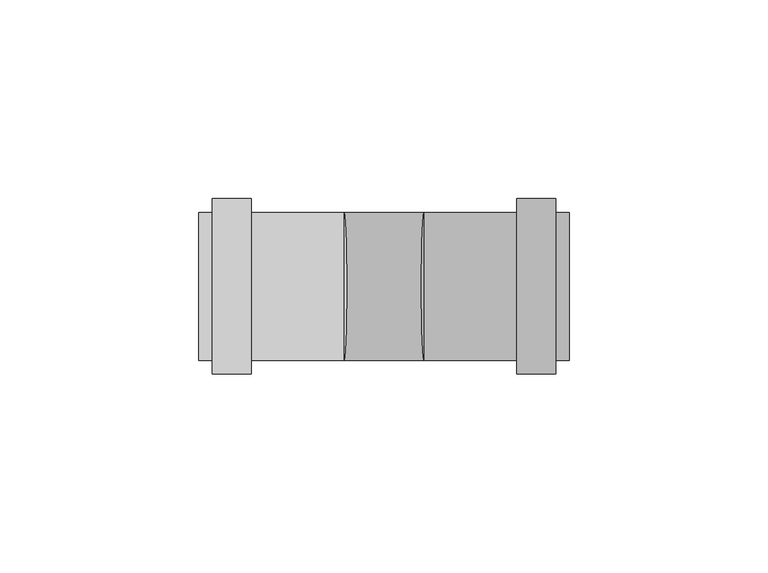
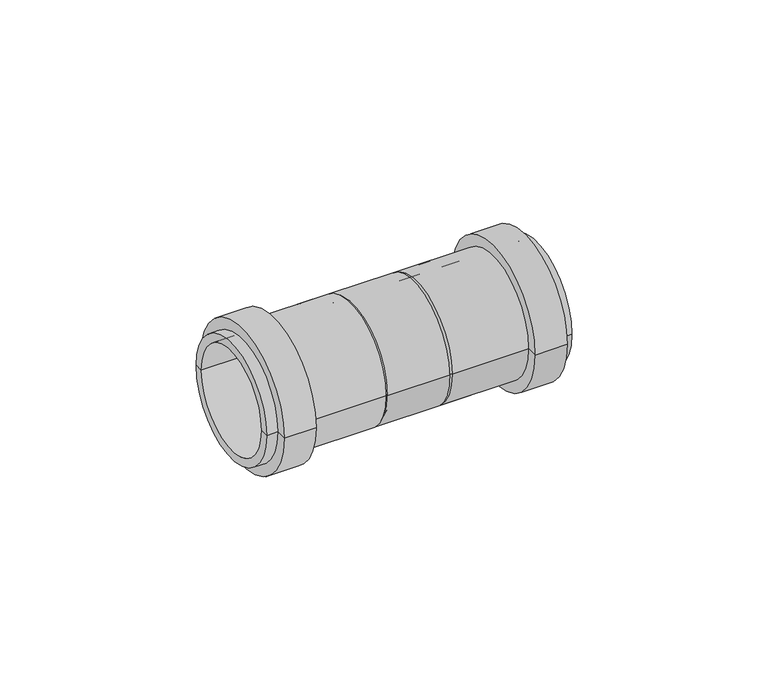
"""IFC4 building model written with IfcOpenShell, lengths in millimetres: pipe fitting geometry, pf_HTU : pf_HTU."""

import ifcopenshell
import ifcopenshell.guid

model = None  # the IFC model being written
_history = None  # IfcOwnerHistory: only IFC2X3 demands one
_inside = {}  # id of a spatial element -> (the spatial element, [elements in it])
_under = {}  # id of a project, library or spatial element -> (it, [spatial elements below it])
_declared = {}  # id of a project -> (the project, [libraries it declares])
_typed = {}  # id of a type object -> (the type object, [elements of that type])
_made_of = {}  # id of a material, layer set ... -> (it, [elements and type objects made of it])


def new_model(schema):
    """Start an empty IFC model of exactly this schema.

    Asked for "IFC4X3", IfcOpenShell would pick the latest addendum, in which some entities
    have other attributes; the version numbers below select the first issue.
    IFC2X3 requires an IfcOwnerHistory on every rooted entity: one is made here for all.
    """
    global model, _history
    if schema == "IFC4X3":
        model = ifcopenshell.file(schema_version=(4, 3, 0, 0))
    else:
        model = ifcopenshell.file(schema=schema)
    _inside.clear()
    _under.clear()
    _declared.clear()
    _typed.clear()
    _made_of.clear()
    _history = None
    if model.schema == "IFC2X3":
        org = make("IfcOrganization", Name="unknown")
        user = make(
            "IfcPersonAndOrganization",
            ThePerson=make("IfcPerson", FamilyName="unknown"),
            TheOrganization=org,
        )
        app = make(
            "IfcApplication",
            ApplicationDeveloper=org,
            Version="unknown",
            ApplicationFullName="unknown",
            ApplicationIdentifier="unknown",
        )
        _history = make(
            "IfcOwnerHistory",
            OwningUser=user,
            OwningApplication=app,
            ChangeAction="ADDED",
            CreationDate=0,
        )
    return model


def make(cls, **values):
    """One entity of the class cls with the attributes given. An attribute that is None is left unset."""
    return model.create_entity(
        cls, **{name: value for name, value in values.items() if value is not None}
    )


def rooted(cls, **values):
    """An entity with a GlobalId (a new one), such as an element, a storey or a relation."""
    return make(cls, GlobalId=ifcopenshell.guid.new(), OwnerHistory=_history, **values)


def si_unit(unit_type, name, prefix=None):
    """IfcSIUnit, for example si_unit("LENGTHUNIT", "METRE", prefix="MILLI")."""
    return make("IfcSIUnit", UnitType=unit_type, Prefix=prefix, Name=name)


def assignment(units):
    """IfcUnitAssignment: the units of a project."""
    return None if units is None else make("IfcUnitAssignment", Units=units)


def point(xyz):
    """IfcCartesianPoint."""
    return None if xyz is None else make("IfcCartesianPoint", Coordinates=xyz)


def direction(xyz):
    """IfcDirection."""
    return None if xyz is None else make("IfcDirection", DirectionRatios=xyz)


def frame(location, z_axis=None, x_axis=None):
    """IfcAxis2Placement3D, a coordinate frame: its origin and axes. An axis left out is left unset."""
    return make(
        "IfcAxis2Placement3D",
        Location=point(location),
        Axis=direction(z_axis),
        RefDirection=direction(x_axis),
    )


def frame_2d(location, x_axis=None):
    """IfcAxis2Placement2D, a coordinate frame in the plane: its origin and x axis."""
    return make(
        "IfcAxis2Placement2D", Location=point(location), RefDirection=direction(x_axis)
    )


def origin():
    """The frame at (0, 0, 0) with its axes left unset."""
    return frame((0.0, 0.0, 0.0))


def origin_2d():
    """The frame at (0, 0) in the plane with its x axis left unset."""
    return frame_2d((0.0, 0.0))


def place(relative_to, where):
    """IfcLocalPlacement: puts the frame where relative to a parent placement (None: the world)."""
    return make(
        "IfcLocalPlacement", PlacementRelTo=relative_to, RelativePlacement=where
    )


def context(
    kind, dimensions, precision=None, world=None, true_north=None, identifier=None
):
    """IfcGeometricRepresentationContext, for example the 3D "Model" context."""
    return make(
        "IfcGeometricRepresentationContext",
        ContextIdentifier=identifier,
        ContextType=kind,
        CoordinateSpaceDimension=dimensions,
        Precision=precision,
        WorldCoordinateSystem=world,
        TrueNorth=true_north,
    )


def project(units=None, contexts=None):
    """IfcProject with its units and contexts."""
    return rooted(
        "IfcProject",
        Name="project",
        RepresentationContexts=contexts,
        UnitsInContext=assignment(units),
    )


def spatial(cls, under=None, at=None, **own):
    """A site, building, storey or space (cls), placed at a placement, below another one or the project."""
    s = rooted(cls, ObjectPlacement=at, **own)
    if under is not None:
        _under.setdefault(under.id(), (under, []))[1].append(s)
    return s


def polyline(points):
    """IfcPolyline through the points."""
    return make("IfcPolyline", Points=[point(p) for p in points])


def circle_curve(where, radius):
    """IfcCircle in the frame where."""
    return make("IfcCircle", Position=where, Radius=radius)


def trimmed(basis, trim1, trim2, sense, master):
    """IfcTrimmedCurve: the piece of a basis curve between two trims."""
    return make(
        "IfcTrimmedCurve",
        BasisCurve=basis,
        Trim1=trim1,
        Trim2=trim2,
        SenseAgreement=sense,
        MasterRepresentation=master,
    )


def segment(curve, same_sense, transition):
    """IfcCompositeCurveSegment."""
    return make(
        "IfcCompositeCurveSegment",
        Transition=transition,
        SameSense=same_sense,
        ParentCurve=curve,
    )


def composite_curve(segments, self_intersect=None):
    """IfcCompositeCurve: segments joined end to end."""
    return make("IfcCompositeCurve", Segments=segments, SelfIntersect=self_intersect)


def outline(outer, holes=None, kind="AREA"):
    """IfcArbitraryClosedProfileDef: a profile drawn as a closed curve; with holes, ...WithVoids."""
    if holes is None:
        return make("IfcArbitraryClosedProfileDef", ProfileType=kind, OuterCurve=outer)
    return make(
        "IfcArbitraryProfileDefWithVoids",
        ProfileType=kind,
        OuterCurve=outer,
        InnerCurves=holes,
    )


def extrude(swept, where, along, depth):
    """IfcExtrudedAreaSolid: the profile swept, set in the frame where, extruded along a direction by depth."""
    return make(
        "IfcExtrudedAreaSolid",
        SweptArea=swept,
        Position=where,
        ExtrudedDirection=direction(along),
        Depth=depth,
    )


def shape(context_of_items, identifier, shape_type, items):
    """IfcShapeRepresentation: the items that make up one representation, for example the "Body"."""
    return make(
        "IfcShapeRepresentation",
        ContextOfItems=context_of_items,
        RepresentationIdentifier=identifier,
        RepresentationType=shape_type,
        Items=items,
    )


def source(mapping_origin, context_of_items, identifier, shape_type, items):
    """IfcRepresentationMap: a shape defined once, which mapped items show again and again."""
    return make(
        "IfcRepresentationMap",
        MappingOrigin=mapping_origin,
        MappedRepresentation=shape(context_of_items, identifier, shape_type, items),
    )


def transform(
    local_origin,
    x_axis=None,
    y_axis=None,
    z_axis=None,
    scale=None,
    scale2=None,
    scale3=None,
    uniform=True,
):
    """IfcCartesianTransformationOperator3D, or its non-uniform kind. x_axis, y_axis, z_axis: its Axis1, 2, 3."""
    if uniform:
        return make(
            "IfcCartesianTransformationOperator3D",
            Axis1=direction(x_axis),
            Axis2=direction(y_axis),
            LocalOrigin=point(local_origin),
            Scale=scale,
            Axis3=direction(z_axis),
        )
    return make(
        "IfcCartesianTransformationOperator3DnonUniform",
        Axis1=direction(x_axis),
        Axis2=direction(y_axis),
        LocalOrigin=point(local_origin),
        Scale=scale,
        Axis3=direction(z_axis),
        Scale2=scale2,
        Scale3=scale3,
    )


def mapped(mapping_source, mapping_target):
    """IfcMappedItem: shows the shape of a source again, moved by a transform."""
    return make(
        "IfcMappedItem", MappingSource=mapping_source, MappingTarget=mapping_target
    )


def made_of(thing, what):
    """Note that an element or type object is made of a material, layer set ...; save() writes the relation."""
    if what is not None:
        _made_of.setdefault(what.id(), (what, []))[1].append(thing)
    return thing


def element(
    cls,
    number,
    at=None,
    inside=None,
    cuts=None,
    type_object=None,
    material=None,
    context=None,
    identifier="Body",
    shape_type=None,
    held_by="IfcProductDefinitionShape",
    body=None,
    shapes=None,
    **own,
):
    """One element of the class cls, such as IfcWall. Its Tag is "e" and its number.

    at: its placement. inside: the storey or other place that contains it. cuts: it is an
    opening in that element (IfcRelVoidsElement). A single representation is given by context,
    identifier, shape_type and body (its items); several are given by shapes. held_by: the class
    of the entity that holds the representations. save() writes the other relations.
    """
    e = rooted(cls, Tag="e%d" % number, ObjectPlacement=at, **own)
    if body is not None:
        shapes = [shape(context, identifier, shape_type, body)]
    if shapes is not None:
        e.Representation = make(held_by, Representations=shapes)
    if inside is not None:
        _inside.setdefault(inside.id(), (inside, []))[1].append(e)
    if cuts is not None:
        rooted(
            "IfcRelVoidsElement", RelatingBuildingElement=cuts, RelatedOpeningElement=e
        )
    if type_object is not None:
        _typed.setdefault(type_object.id(), (type_object, []))[1].append(e)
    return made_of(e, material)


def aggregate(whole, parts):
    """IfcRelAggregates: a whole, such as a stair, and the parts it consists of."""
    return rooted("IfcRelAggregates", RelatingObject=whole, RelatedObjects=parts)


def save(model, path):
    """Write the relations noted so far, then the file.

    IfcRelAggregates (storeys below a building ...), IfcRelContainedInSpatialStructure (elements
    in a storey), IfcRelDefinesByType, IfcRelAssociatesMaterial and IfcRelDeclares: one each for
    every whole, place, type object, material and project.
    """
    for whole, parts in _under.values():
        aggregate(whole, parts)
    for where, things in _inside.values():
        rooted(
            "IfcRelContainedInSpatialStructure",
            RelatedElements=things,
            RelatingStructure=where,
        )
    for kind, things in _typed.values():
        rooted("IfcRelDefinesByType", RelatedObjects=things, RelatingType=kind)
    for what, things in _made_of.values():
        rooted("IfcRelAssociatesMaterial", RelatedObjects=things, RelatingMaterial=what)
    for by, libraries in _declared.values():
        rooted("IfcRelDeclares", RelatingContext=by, RelatedDefinitions=libraries)
    model.write(path)


def plane_surface(at):
    """IfcPlane: the flat surface through the origin of the frame at, square to its z axis."""
    return make("IfcPlane", Position=at)


def cylinder_surface(at, radius):
    """IfcCylindricalSurface: all points at the distance radius from the z axis of the frame at."""
    return make("IfcCylindricalSurface", Position=at, Radius=radius)


def revolved_surface(curve, axis_point, axis_direction):
    """IfcSurfaceOfRevolution: the curve turned about the line through axis_point along axis_direction."""
    return make(
        "IfcSurfaceOfRevolution",
        SweptCurve=make("IfcArbitraryOpenProfileDef", ProfileType="CURVE", Curve=curve),
        AxisPosition=make("IfcAxis1Placement", Location=point(axis_point), Axis=direction(axis_direction)),
    )


def advanced_brep(points, edges, surfaces, faces):
    """IfcAdvancedBrep: a solid bounded by faces that lie on surfaces and meet in shared edges.

    An edge is (start, end): straight between two places in points (the first is 0);
    or (start, end, curve); or (start, end, curve, False) where it runs against its curve.
    A face is (place in surfaces, loops), or (place, loops, False) where it looks against
    its surface's normal. A loop lists edges by number (the first is 1), with a minus sign
    where the edge is run from its end to its start. The first loop is the outer one.
    """
    corners = [point(p) for p in points]
    vertices = [make("IfcVertexPoint", VertexGeometry=c) for c in corners]
    made = []
    for start, end, *more in edges:
        made.append(
            make(
                "IfcEdgeCurve",
                EdgeStart=vertices[start],
                EdgeEnd=vertices[end],
                EdgeGeometry=more[0] if more else make("IfcPolyline", Points=[corners[start], corners[end]]),
                SameSense=more[1] if len(more) > 1 else True,
            )
        )
    hull = []
    for where, loops, *sense in faces:
        bounds = []
        for j, loop in enumerate(loops):
            ring = [make("IfcOrientedEdge", EdgeElement=made[abs(k) - 1], Orientation=k > 0) for k in loop]
            bounds.append(
                make(
                    "IfcFaceOuterBound" if j == 0 else "IfcFaceBound",
                    Bound=make("IfcEdgeLoop", EdgeList=ring),
                    Orientation=True,
                )
            )
        hull.append(make("IfcAdvancedFace", Bounds=bounds, FaceSurface=surfaces[where], SameSense=sense[0] if sense else True))
    return make("IfcAdvancedBrep", Outer=make("IfcClosedShell", CfsFaces=hull))


def pipe_fitting_61e1075e(model_context):
    return source(origin(), model_context, "Body", "SolidModel", [
        advanced_brep(
        [(6.5, -16.0, 0.0), (6.5, 16.0, 0.0), (10.0, 18.6, 0.0), (10.0, -18.6, 0.0), (6.5, 0.0, 0.0), (46.5, -18.6, 0.0), (46.5, 18.6, 0.0), (46.5, 16.0, 0.0), (46.5, -16.0, 0.0), (43.1, -18.6, 0.0), (43.1, 18.6, 0.0), (43.1, -22.0, 0.0), (43.1, 22.0, 0.0), (33.4, -22.0, 0.0), (33.4, 22.0, 0.0), (33.4, -18.6, 0.0), (33.4, 18.6, 0.0), (10.0, -16.0, 0.0), (10.0, 16.0, 0.0), (10.0, 0.0, 0.0)],
        [
            (0, 1, circle_curve(frame((6.5, 0.0, 0.0), z_axis=(1.0, 0.0, 0.0), x_axis=(0.0, 1.0, 0.0)), 16.0)),
            (1, 2),
            (2, 3, circle_curve(frame((10.0, 0.0, 0.0), z_axis=(-1.0, 0.0, 0.0), x_axis=(0.0, 1.0, 0.0)), 18.6)),
            (3, 0),
            (1, 0, circle_curve(frame((6.5, 0.0, 0.0), z_axis=(1.0, 0.0, 0.0), x_axis=(0.0, 1.0, 0.0)), 16.0)),
            (3, 2, circle_curve(frame((10.0, 0.0, 0.0), z_axis=(-1.0, 0.0, 0.0), x_axis=(0.0, 1.0, 0.0)), 18.6)),
            (4, 1),
            (0, 4),
            (5, 6, circle_curve(frame((46.5, 0.0, 0.0), z_axis=(1.0, 0.0, 0.0), x_axis=(0.0, 1.0, 0.0)), 18.6)),
            (6, 7),
            (7, 8, circle_curve(frame((46.5, 0.0, 0.0), z_axis=(-1.0, 0.0, 0.0), x_axis=(0.0, 1.0, 0.0)), 16.0)),
            (8, 5),
            (6, 5, circle_curve(frame((46.5, 0.0, 0.0), z_axis=(1.0, 0.0, 0.0), x_axis=(0.0, 1.0, 0.0)), 18.6)),
            (8, 7, circle_curve(frame((46.5, 0.0, 0.0), z_axis=(-1.0, 0.0, 0.0), x_axis=(0.0, 1.0, 0.0)), 16.0)),
            (9, 10, circle_curve(frame((43.1, 0.0, 0.0), z_axis=(1.0, 0.0, 0.0), x_axis=(0.0, 1.0, 0.0)), 18.6)),
            (10, 6),
            (5, 9),
            (10, 9, circle_curve(frame((43.1, 0.0, 0.0), z_axis=(1.0, 0.0, 0.0), x_axis=(0.0, 1.0, 0.0)), 18.6)),
            (11, 12, circle_curve(frame((43.1, 0.0, 0.0), z_axis=(1.0, 0.0, 0.0), x_axis=(0.0, 1.0, 0.0)), 22.0)),
            (12, 10),
            (9, 11),
            (12, 11, circle_curve(frame((43.1, 0.0, 0.0), z_axis=(1.0, 0.0, 0.0), x_axis=(0.0, 1.0, 0.0)), 22.0)),
            (13, 14, circle_curve(frame((33.4, 0.0, 0.0), z_axis=(1.0, 0.0, 0.0), x_axis=(0.0, 1.0, 0.0)), 22.0)),
            (14, 12),
            (11, 13),
            (14, 13, circle_curve(frame((33.4, 0.0, 0.0), z_axis=(1.0, 0.0, 0.0), x_axis=(0.0, 1.0, 0.0)), 22.0)),
            (15, 16, circle_curve(frame((33.4, 0.0, 0.0), z_axis=(1.0, 0.0, 0.0), x_axis=(0.0, 1.0, 0.0)), 18.6)),
            (16, 14),
            (13, 15),
            (16, 15, circle_curve(frame((33.4, 0.0, 0.0), z_axis=(1.0, 0.0, 0.0), x_axis=(0.0, 1.0, 0.0)), 18.6)),
            (2, 16),
            (15, 3),
            (17, 18, circle_curve(frame((10.0, 0.0, 0.0), z_axis=(1.0, 0.0, 0.0), x_axis=(0.0, 1.0, 0.0)), 16.0)),
            (18, 19),
            (19, 17),
            (18, 17, circle_curve(frame((10.0, 0.0, 0.0), z_axis=(1.0, 0.0, 0.0), x_axis=(0.0, 1.0, 0.0)), 16.0)),
            (7, 18),
            (17, 8),
        ],
        [
            revolved_surface(polyline([(10.0, 18.6, 0.0), (6.5, 16.0, 0.0)]), (6.5, 0.0, 0.0), (-1.0, 0.0, 0.0)),
            plane_surface(frame((6.5, 0.0, 0.0), z_axis=(-1.0, 0.0, 0.0), x_axis=(0.0, 1.0, 0.0))),
            plane_surface(frame((46.5, 0.0, 0.0), z_axis=(1.0, 0.0, 0.0), x_axis=(0.0, 1.0, 0.0))),
            cylinder_surface(frame((6.5, 0.0, 0.0), z_axis=(-1.0, 0.0, 0.0), x_axis=(0.0, 1.0, 0.0)), 18.6),
            plane_surface(frame((43.1, 0.0, 0.0), z_axis=(1.0, 0.0, 0.0), x_axis=(0.0, 1.0, 0.0))),
            cylinder_surface(frame((6.5, 0.0, 0.0), z_axis=(-1.0, 0.0, 0.0), x_axis=(0.0, 1.0, 0.0)), 22.0),
            plane_surface(frame((33.4, 0.0, 0.0), z_axis=(-1.0, 0.0, 0.0), x_axis=(0.0, 1.0, 0.0))),
            plane_surface(frame((10.0, 0.0, 0.0), z_axis=(1.0, 0.0, 0.0), x_axis=(0.0, 1.0, 0.0))),
            revolved_surface(polyline([(10.0, 16.0, 0.0), (46.5, 16.0, 0.0)]), (6.5, 0.0, 0.0), (-1.0, 0.0, 0.0)),
        ],
        [
            (0, [[1, 2, 3, 4]]),
            (0, [[5, -4, 6, -2]]),
            (1, [[7, -1, 8]]),
            (1, [[-8, -5, -7]]),
            (2, [[9, 10, 11, 12]]),
            (2, [[13, -12, 14, -10]]),
            (3, [[15, 16, -9, 17]]),
            (3, [[18, -17, -13, -16]]),
            (4, [[19, 20, -15, 21]]),
            (4, [[22, -21, -18, -20]]),
            (5, [[23, 24, -19, 25]]),
            (5, [[26, -25, -22, -24]]),
            (6, [[27, 28, -23, 29]]),
            (6, [[30, -29, -26, -28]]),
            (3, [[-3, 31, -27, 32]]),
            (3, [[-6, -32, -30, -31]]),
            (7, [[33, 34, 35]]),
            (7, [[36, -35, -34]]),
            (8, [[-11, 37, -33, 38]]),
            (8, [[-14, -38, -36, -37]]),
        ],
    ),
        advanced_brep(
        [(-6.5, 16.0, 0.0), (-6.5, -16.0, 0.0), (-10.0, -18.6, 0.0), (-10.0, 18.6, 0.0), (-6.5, 0.0, 0.0), (-46.5, 18.6, 0.0), (-46.5, -18.6, 0.0), (-46.5, -16.0, 0.0), (-46.5, 16.0, 0.0), (-43.1, 18.6, 0.0), (-43.1, -18.6, 0.0), (-43.1, 22.0, 0.0), (-43.1, -22.0, 0.0), (-33.4, 22.0, 0.0), (-33.4, -22.0, 0.0), (-33.4, 18.6, 0.0), (-33.4, -18.6, 0.0), (-10.0, 16.0, 0.0), (-10.0, -16.0, 0.0), (-10.0, 0.0, 0.0)],
        [
            (0, 1, circle_curve(frame((-6.5, 0.0, 0.0), z_axis=(-1.0, 0.0, 0.0), x_axis=(0.0, -1.0, 0.0)), 16.0)),
            (1, 2),
            (2, 3, circle_curve(frame((-10.0, 0.0, 0.0), z_axis=(1.0, 0.0, 0.0), x_axis=(0.0, -1.0, 0.0)), 18.6)),
            (3, 0),
            (1, 0, circle_curve(frame((-6.5, 0.0, 0.0), z_axis=(-1.0, 0.0, 0.0), x_axis=(0.0, -1.0, 0.0)), 16.0)),
            (3, 2, circle_curve(frame((-10.0, 0.0, 0.0), z_axis=(1.0, 0.0, 0.0), x_axis=(0.0, -1.0, 0.0)), 18.6)),
            (4, 1),
            (0, 4),
            (5, 6, circle_curve(frame((-46.5, 0.0, 0.0), z_axis=(-1.0, 0.0, 0.0), x_axis=(0.0, -1.0, 0.0)), 18.6)),
            (6, 7),
            (7, 8, circle_curve(frame((-46.5, 0.0, 0.0), z_axis=(1.0, 0.0, 0.0), x_axis=(0.0, -1.0, 0.0)), 16.0)),
            (8, 5),
            (6, 5, circle_curve(frame((-46.5, 0.0, 0.0), z_axis=(-1.0, 0.0, 0.0), x_axis=(0.0, -1.0, 0.0)), 18.6)),
            (8, 7, circle_curve(frame((-46.5, 0.0, 0.0), z_axis=(1.0, 0.0, 0.0), x_axis=(0.0, -1.0, 0.0)), 16.0)),
            (9, 10, circle_curve(frame((-43.1, 0.0, 0.0), z_axis=(-1.0, 0.0, 0.0), x_axis=(0.0, -1.0, 0.0)), 18.6)),
            (10, 6),
            (5, 9),
            (10, 9, circle_curve(frame((-43.1, 0.0, 0.0), z_axis=(-1.0, 0.0, 0.0), x_axis=(0.0, -1.0, 0.0)), 18.6)),
            (11, 12, circle_curve(frame((-43.1, 0.0, 0.0), z_axis=(-1.0, 0.0, 0.0), x_axis=(0.0, -1.0, 0.0)), 22.0)),
            (12, 10),
            (9, 11),
            (12, 11, circle_curve(frame((-43.1, 0.0, 0.0), z_axis=(-1.0, 0.0, 0.0), x_axis=(0.0, -1.0, 0.0)), 22.0)),
            (13, 14, circle_curve(frame((-33.4, 0.0, 0.0), z_axis=(-1.0, 0.0, 0.0), x_axis=(0.0, -1.0, 0.0)), 22.0)),
            (14, 12),
            (11, 13),
            (14, 13, circle_curve(frame((-33.4, 0.0, 0.0), z_axis=(-1.0, 0.0, 0.0), x_axis=(0.0, -1.0, 0.0)), 22.0)),
            (15, 16, circle_curve(frame((-33.4, 0.0, 0.0), z_axis=(-1.0, 0.0, 0.0), x_axis=(0.0, -1.0, 0.0)), 18.6)),
            (16, 14),
            (13, 15),
            (16, 15, circle_curve(frame((-33.4, 0.0, 0.0), z_axis=(-1.0, 0.0, 0.0), x_axis=(0.0, -1.0, 0.0)), 18.6)),
            (2, 16),
            (15, 3),
            (17, 18, circle_curve(frame((-10.0, 0.0, 0.0), z_axis=(-1.0, 0.0, 0.0), x_axis=(0.0, -1.0, 0.0)), 16.0)),
            (18, 19),
            (19, 17),
            (18, 17, circle_curve(frame((-10.0, 0.0, 0.0), z_axis=(-1.0, 0.0, 0.0), x_axis=(0.0, -1.0, 0.0)), 16.0)),
            (7, 18),
            (17, 8),
        ],
        [
            revolved_surface(polyline([(-10.0, -18.6, 0.0), (-6.5, -16.0, 0.0)]), (-6.5, 0.0, 0.0), (1.0, 0.0, 0.0)),
            plane_surface(frame((-6.5, 0.0, 0.0), z_axis=(1.0, 0.0, 0.0), x_axis=(0.0, -1.0, 0.0))),
            plane_surface(frame((-46.5, 0.0, 0.0), z_axis=(-1.0, 0.0, 0.0), x_axis=(0.0, -1.0, 0.0))),
            cylinder_surface(frame((-6.5, 0.0, 0.0), z_axis=(1.0, 0.0, 0.0), x_axis=(0.0, -1.0, 0.0)), 18.6),
            plane_surface(frame((-43.1, 0.0, 0.0), z_axis=(-1.0, 0.0, 0.0), x_axis=(0.0, -1.0, 0.0))),
            cylinder_surface(frame((-6.5, 0.0, 0.0), z_axis=(1.0, 0.0, 0.0), x_axis=(0.0, -1.0, 0.0)), 22.0),
            plane_surface(frame((-33.4, 0.0, 0.0), z_axis=(1.0, 0.0, 0.0), x_axis=(0.0, -1.0, 0.0))),
            plane_surface(frame((-10.0, 0.0, 0.0), z_axis=(-1.0, 0.0, 0.0), x_axis=(0.0, -1.0, 0.0))),
            revolved_surface(polyline([(-10.0, -16.0, 0.0), (-46.5, -16.0, 0.0)]), (-6.5, 0.0, 0.0), (1.0, 0.0, 0.0)),
        ],
        [
            (0, [[1, 2, 3, 4]]),
            (0, [[5, -4, 6, -2]]),
            (1, [[7, -1, 8]]),
            (1, [[-8, -5, -7]]),
            (2, [[9, 10, 11, 12]]),
            (2, [[13, -12, 14, -10]]),
            (3, [[15, 16, -9, 17]]),
            (3, [[18, -17, -13, -16]]),
            (4, [[19, 20, -15, 21]]),
            (4, [[22, -21, -18, -20]]),
            (5, [[23, 24, -19, 25]]),
            (5, [[26, -25, -22, -24]]),
            (6, [[27, 28, -23, 29]]),
            (6, [[30, -29, -26, -28]]),
            (3, [[-3, 31, -27, 32]]),
            (3, [[-6, -32, -30, -31]]),
            (7, [[33, 34, 35]]),
            (7, [[36, -35, -34]]),
            (8, [[-11, 37, -33, 38]]),
            (8, [[-14, -38, -36, -37]]),
        ],
    ),
        extrude(outline(composite_curve([segment(trimmed(circle_curve(origin_2d(), 18.6), [point((-18.6, 0.0))], [point((18.6, 0.0))], False, "CARTESIAN"), True, "CONTINUOUS"), segment(trimmed(circle_curve(origin_2d(), 18.6), [point((18.6, 0.0))], [point((-18.6, 0.0))], False, "CARTESIAN"), True, "CONTINUOUS")], self_intersect=False)), frame((-19.2389226, 0.0, 0.0), z_axis=(1.0, 0.0, 0.0), x_axis=(0.0, 1.0, 0.0)), (0.0, 0.0, 1.0), 38.4778452),
    ])


if __name__ == "__main__":
    model = new_model("IFC4")
    model_context = context("Model", 3, world=origin())
    ifc_project = project(units=[si_unit("LENGTHUNIT", "METRE", prefix="MILLI")], contexts=[model_context])
    site = spatial("IfcSite", under=ifc_project)
    building = spatial("IfcBuilding", under=site)
    placement = place(None, origin())
    pipe_fitting_shape = pipe_fitting_61e1075e(model_context)
    element("IfcPipeFitting", 1, ObjectType="pf_HTU : pf_HTU", at=placement, inside=building, context=model_context, shape_type="MappedRepresentation", body=[
        mapped(pipe_fitting_shape, transform((0.0, 0.0, 0.0), x_axis=(1.0, 0.0, 0.0), y_axis=(0.0, 1.0, 0.0), z_axis=(0.0, 0.0, 1.0))),
    ])
    save(model, "model.ifc")
